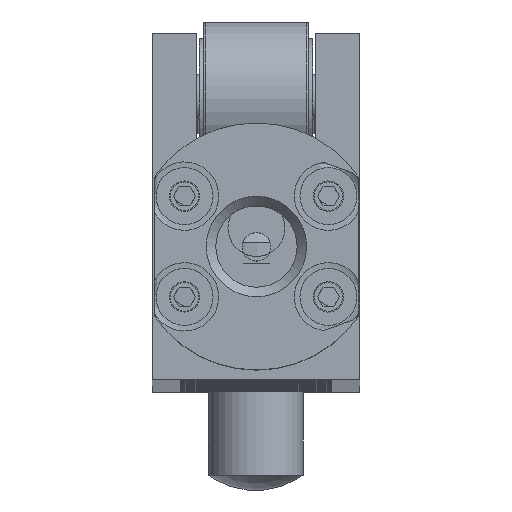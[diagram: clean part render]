
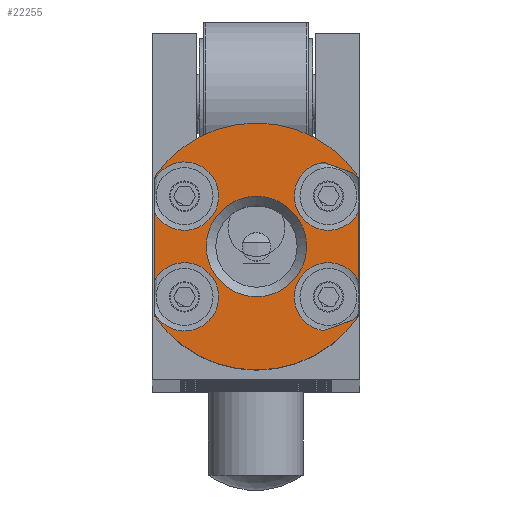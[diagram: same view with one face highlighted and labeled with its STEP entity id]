
A CAD part, top view. The second image highlights one B-rep face of the part: STEP entity #22255.
In plain terms, the highlighted planar face has unit normal (0, 0, 1).
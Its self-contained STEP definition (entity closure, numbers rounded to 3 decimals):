
#758=FACE_BOUND('',#3600,.T.);
#1330=PLANE('',#24715);
#2226=FACE_OUTER_BOUND('',#3599,.T.);
#3599=EDGE_LOOP('',(#17884,#17885,#17886,#17887,#17888,#17889,#17890,#17891,
#17892,#17893,#17894,#17895,#17896,#17897,#17898,#17899));
#3600=EDGE_LOOP('',(#17900));
#4588=LINE('',#40910,#5440);
#4589=LINE('',#40912,#5441);
#4590=LINE('',#40917,#5442);
#4597=LINE('',#40966,#5449);
#4600=LINE('',#40987,#5452);
#4601=LINE('',#40988,#5453);
#4602=LINE('',#40989,#5454);
#4605=LINE('',#41003,#5457);
#5440=VECTOR('',#30651,10.);
#5441=VECTOR('',#30652,10.);
#5442=VECTOR('',#30653,10.);
#5449=VECTOR('',#30692,10.);
#5452=VECTOR('',#30709,10.);
#5453=VECTOR('',#30710,10.);
#5454=VECTOR('',#30711,10.);
#5457=VECTOR('',#30728,10.);
#6892=CIRCLE('',#24676,13.);
#6897=CIRCLE('',#24685,13.);
#6903=CIRCLE('',#24696,5.283);
#6906=CIRCLE('',#24701,3.6);
#6909=CIRCLE('',#24707,3.6);
#6910=CIRCLE('',#24708,3.6);
#6913=CIRCLE('',#24714,3.6);
#6914=CIRCLE('',#24716,3.6);
#6915=CIRCLE('',#24717,3.6);
#9270=VERTEX_POINT('',#40882);
#9271=VERTEX_POINT('',#40884);
#9275=VERTEX_POINT('',#40899);
#9276=VERTEX_POINT('',#40901);
#9277=VERTEX_POINT('',#40905);
#9278=VERTEX_POINT('',#40906);
#9279=VERTEX_POINT('',#40911);
#9280=VERTEX_POINT('',#40913);
#9286=VERTEX_POINT('',#40935);
#9289=VERTEX_POINT('',#40945);
#9291=VERTEX_POINT('',#40950);
#9292=VERTEX_POINT('',#40957);
#9294=VERTEX_POINT('',#40962);
#9297=VERTEX_POINT('',#40978);
#9299=VERTEX_POINT('',#40983);
#9302=VERTEX_POINT('',#41000);
#9303=VERTEX_POINT('',#41002);
#12281=EDGE_CURVE('',#9271,#9270,#6892,.T.);
#12288=EDGE_CURVE('',#9275,#9276,#6897,.T.);
#12291=EDGE_CURVE('',#9271,#9278,#4588,.T.);
#12292=EDGE_CURVE('',#9279,#9276,#4589,.T.);
#12294=EDGE_CURVE('',#9277,#9280,#4590,.T.);
#12303=EDGE_CURVE('',#9286,#9286,#6903,.T.);
#12309=EDGE_CURVE('',#9291,#9289,#6906,.T.);
#12314=EDGE_CURVE('',#9292,#9294,#4597,.T.);
#12318=EDGE_CURVE('',#9294,#9279,#6909,.T.);
#12320=EDGE_CURVE('',#9280,#9292,#6910,.T.);
#12323=EDGE_CURVE('',#9289,#9299,#4600,.T.);
#12324=EDGE_CURVE('',#9275,#9291,#4601,.T.);
#12325=EDGE_CURVE('',#9297,#9270,#4602,.T.);
#12329=EDGE_CURVE('',#9299,#9297,#6913,.T.);
#12331=EDGE_CURVE('',#9278,#9302,#6914,.T.);
#12332=EDGE_CURVE('',#9302,#9303,#4605,.T.);
#12333=EDGE_CURVE('',#9303,#9277,#6915,.T.);
#17884=ORIENTED_EDGE('',*,*,#12331,.T.);
#17885=ORIENTED_EDGE('',*,*,#12332,.T.);
#17886=ORIENTED_EDGE('',*,*,#12333,.T.);
#17887=ORIENTED_EDGE('',*,*,#12294,.T.);
#17888=ORIENTED_EDGE('',*,*,#12320,.T.);
#17889=ORIENTED_EDGE('',*,*,#12314,.T.);
#17890=ORIENTED_EDGE('',*,*,#12318,.T.);
#17891=ORIENTED_EDGE('',*,*,#12292,.T.);
#17892=ORIENTED_EDGE('',*,*,#12288,.F.);
#17893=ORIENTED_EDGE('',*,*,#12324,.T.);
#17894=ORIENTED_EDGE('',*,*,#12309,.T.);
#17895=ORIENTED_EDGE('',*,*,#12323,.T.);
#17896=ORIENTED_EDGE('',*,*,#12329,.T.);
#17897=ORIENTED_EDGE('',*,*,#12325,.T.);
#17898=ORIENTED_EDGE('',*,*,#12281,.F.);
#17899=ORIENTED_EDGE('',*,*,#12291,.T.);
#17900=ORIENTED_EDGE('',*,*,#12303,.F.);
#22255=ADVANCED_FACE('',(#2226,#758),#1330,.T.);
#24676=AXIS2_PLACEMENT_3D('',#40886,#30626,#30627);
#24685=AXIS2_PLACEMENT_3D('',#40902,#30646,#30647);
#24696=AXIS2_PLACEMENT_3D('',#40936,#30675,#30676);
#24701=AXIS2_PLACEMENT_3D('',#40951,#30687,#30688);
#24707=AXIS2_PLACEMENT_3D('',#40974,#30702,#30703);
#24708=AXIS2_PLACEMENT_3D('',#40976,#30705,#30706);
#24714=AXIS2_PLACEMENT_3D('',#40997,#30721,#30722);
#24715=AXIS2_PLACEMENT_3D('',#40999,#30724,#30725);
#24716=AXIS2_PLACEMENT_3D('',#41001,#30726,#30727);
#24717=AXIS2_PLACEMENT_3D('',#41004,#30729,#30730);
#30626=DIRECTION('center_axis',(0.,0.,
-1.));
#30627=DIRECTION('ref_axis',(0.,1.,0.));
#30646=DIRECTION('center_axis',(0.,0.,
-1.));
#30647=DIRECTION('ref_axis',(0.,1.,0.));
#30651=DIRECTION('',(0.,1.,0.));
#30652=DIRECTION('',(0.,1.,0.));
#30653=DIRECTION('',(0.,1.,0.));
#30675=DIRECTION('center_axis',(0.,0.,
1.));
#30676=DIRECTION('ref_axis',(-1.,0.,0.));
#30687=DIRECTION('center_axis',(0.,0.,
-1.));
#30688=DIRECTION('ref_axis',(1.,0.,0.));
#30692=DIRECTION('',(0.94,-0.342,0.));
#30702=DIRECTION('center_axis',(0.,0.,
-1.));
#30703=DIRECTION('ref_axis',(-0.342,-0.94,0.));
#30705=DIRECTION('center_axis',(0.,0.,
-1.));
#30706=DIRECTION('ref_axis',(-0.342,-0.94,0.));
#30709=DIRECTION('',(0.,-1.,0.));
#30710=DIRECTION('',(0.,-1.,0.));
#30711=DIRECTION('',(0.,-1.,0.));
#30721=DIRECTION('center_axis',(0.,0.,
-1.));
#30722=DIRECTION('ref_axis',(1.,0.,0.));
#30724=DIRECTION('center_axis',(0.,0.,
1.));
#30725=DIRECTION('ref_axis',(1.,0.,0.));
#30726=DIRECTION('center_axis',(0.,0.,
-1.));
#30727=DIRECTION('ref_axis',(-0.342,0.94,0.));
#30728=DIRECTION('',(-0.94,-0.342,0.));
#30729=DIRECTION('center_axis',(0.,0.,
-1.));
#30730=DIRECTION('ref_axis',(-0.342,0.94,0.));
#40882=CARTESIAN_POINT('',(-10.7,-11.56,396.));
#40884=CARTESIAN_POINT('',(10.8,-11.56,396.));
#40886=CARTESIAN_POINT('Origin',(0.05,-4.25,396.));
#40899=CARTESIAN_POINT('',(-10.7,3.06,396.));
#40901=CARTESIAN_POINT('',(10.8,3.06,396.));
#40902=CARTESIAN_POINT('Origin',(0.05,-4.25,396.));
#40905=CARTESIAN_POINT('',(10.8,-7.855,396.));
#40906=CARTESIAN_POINT('',(10.8,-11.256,396.));
#40910=CARTESIAN_POINT('',(10.8,-4.655,396.));
#40911=CARTESIAN_POINT('',(10.8,2.756,396.));
#40912=CARTESIAN_POINT('',(10.8,-4.655,396.));
#40913=CARTESIAN_POINT('',(10.8,-0.645,396.));
#40917=CARTESIAN_POINT('',(10.8,-4.655,396.));
#40935=CARTESIAN_POINT('',(5.333,-4.25,396.));
#40936=CARTESIAN_POINT('Origin',(0.05,-4.25,396.));
#40945=CARTESIAN_POINT('',(-10.7,-0.645,396.));
#40950=CARTESIAN_POINT('',(-10.7,2.756,396.));
#40951=CARTESIAN_POINT('Origin',(-7.527,1.056,396.));
#40957=CARTESIAN_POINT('',(7.114,4.619,396.));
#40962=CARTESIAN_POINT('',(10.311,3.455,396.));
#40966=CARTESIAN_POINT('',(6.117,4.982,396.));
#40974=CARTESIAN_POINT('Origin',(7.627,1.056,396.));
#40976=CARTESIAN_POINT('Origin',(7.627,1.056,396.));
#40978=CARTESIAN_POINT('',(-10.7,-11.256,396.));
#40983=CARTESIAN_POINT('',(-10.7,-7.855,396.));
#40987=CARTESIAN_POINT('',(-10.7,2.655,396.));
#40988=CARTESIAN_POINT('',(-10.7,2.655,396.));
#40989=CARTESIAN_POINT('',(-10.7,2.655,396.));
#40997=CARTESIAN_POINT('Origin',(-7.527,-9.556,396.));
#40999=CARTESIAN_POINT('Origin',(0.05,2.25,396.));
#41000=CARTESIAN_POINT('',(10.311,-11.955,396.));
#41001=CARTESIAN_POINT('Origin',(7.627,-9.556,396.));
#41002=CARTESIAN_POINT('',(7.114,-13.119,396.));
#41003=CARTESIAN_POINT('',(8.206,-12.721,396.));
#41004=CARTESIAN_POINT('Origin',(7.627,-9.556,396.));
